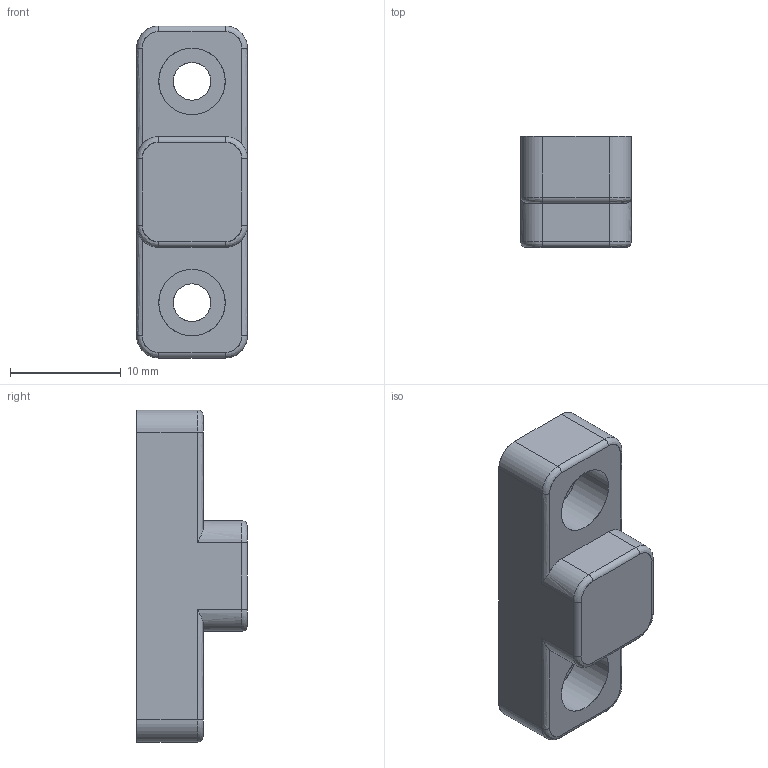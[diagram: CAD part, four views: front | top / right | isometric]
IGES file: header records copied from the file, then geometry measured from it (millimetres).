
Start section: SolidWorks IGES file using analytic representation for surfaces
Global section: file name: C:\Users\plmadmin\AppData\Local\Temp\alsp5-302-232.igs; native system: SolidWorks 2021; preprocessor: SolidWorks 2021; author: plmadmin; date: 260715.105621; units: millimetre
Bounding box: 10 x 10 x 30 mm (x, y, z)
Surface area: 1334.7 mm2 (no closed solid volume)
Topology: 0 solids, 0 shells, 46 faces, 580 edges, 580 vertices
Faces by surface type: revolution 26, bspline 20
